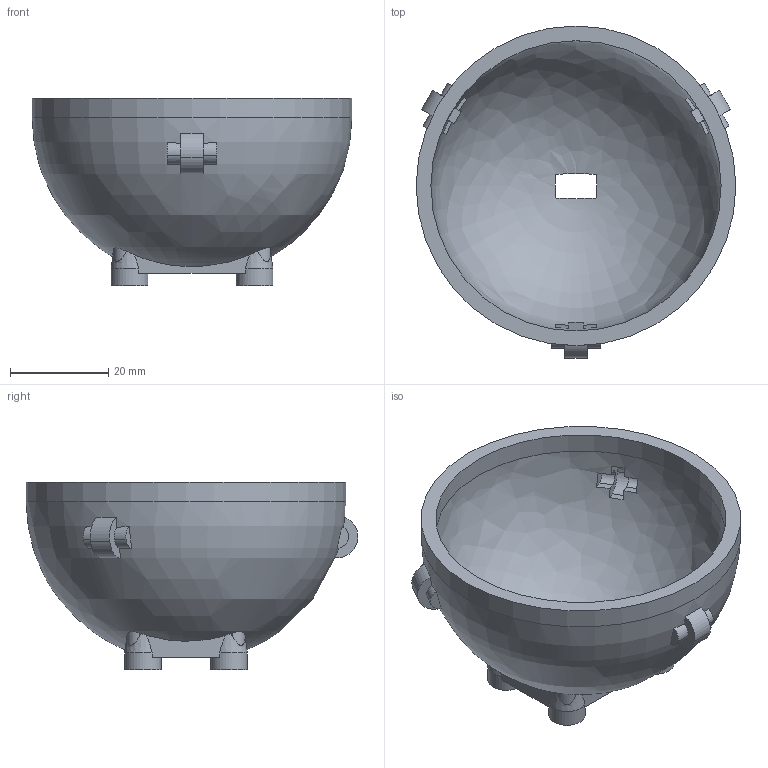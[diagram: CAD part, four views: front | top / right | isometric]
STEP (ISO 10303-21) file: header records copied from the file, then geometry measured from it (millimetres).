
FILE_DESCRIPTION(('Open CASCADE Model'),'2;1');
FILE_NAME('Open CASCADE Shape Model','2026-05-31T19:44:03',('Author'),( 'Open CASCADE'),'Open CASCADE STEP processor 7.6','Open CASCADE 7.6' ,'Unknown');
FILE_SCHEMA(('AP242_MANAGED_MODEL_BASED_3D_ENGINEERING_MIM_LF. {1 0 10303 442 1 1 4 }'));
Length unit declared in the file: millimetre
Products named in the file (1): Open CASCADE STEP translator 7.6 14
Bounding box: 65.15 x 67.63 x 38.17 mm (x, y, z)
Volume: 21436.9 mm3; surface area: 15733.6 mm2
Topology: 1 solids, 1 shells, 133 faces, 358 edges, 238 vertices
Faces by surface type: plane 69, extrusion 36, cylinder 18, bspline 4, cone 4, revolution 2
Full cylindrical faces by diameter (mm): 3.5 x4, 7.5 x4, 59.15 x1, 65.15 x1
Entity records: 20365 total; most frequent: CARTESIAN_POINT 13713, DIRECTION 1054, ORIENTED_EDGE 716, PCURVE 716, DEFINITIONAL_REPRESENTATION 716, VECTOR 506, LINE 470, B_SPLINE_CURVE_WITH_KNOTS 410
